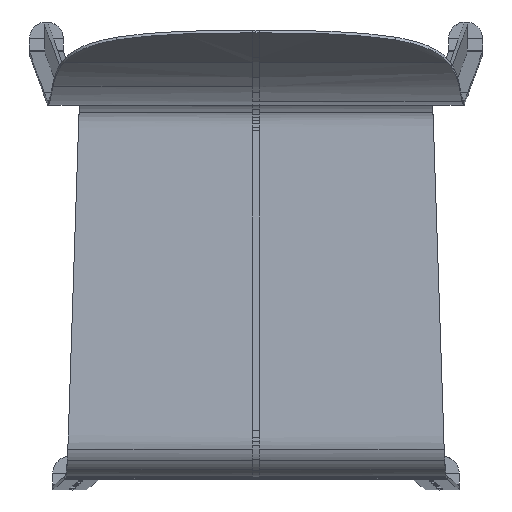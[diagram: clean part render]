
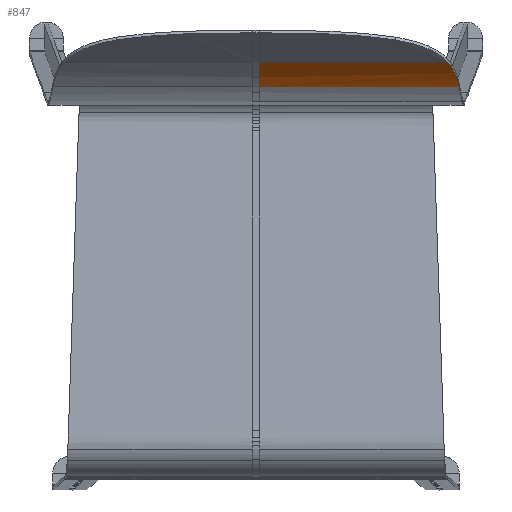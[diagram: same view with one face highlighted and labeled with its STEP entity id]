
A CAD part, top view. The second image highlights one B-rep face of the part: STEP entity #847.
In plain terms, the highlighted free-form (B-spline) face has degree [1, 3] with [4, 4] control points.
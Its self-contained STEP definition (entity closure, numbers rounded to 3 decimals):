
#847=ADVANCED_FACE('',(#1893),#17060,.T.);
#1893=FACE_OUTER_BOUND('',#2943,.T.);
#2943=EDGE_LOOP('',(#7249,#7250,#7251,#7252,#7253,#7254,#7255,#7256));
#7249=ORIENTED_EDGE('',*,*,#10825,.T.);
#7250=ORIENTED_EDGE('',*,*,#10826,.F.);
#7251=ORIENTED_EDGE('',*,*,#10827,.F.);
#7252=ORIENTED_EDGE('',*,*,#10828,.F.);
#7253=ORIENTED_EDGE('',*,*,#10829,.F.);
#7254=ORIENTED_EDGE('',*,*,#10830,.F.);
#7255=ORIENTED_EDGE('',*,*,#10831,.T.);
#7256=ORIENTED_EDGE('',*,*,#10870,.T.);
#10825=EDGE_CURVE('',#15676,#15675,#13609,.T.);
#10826=EDGE_CURVE('',#15598,#15675,#13610,.T.);
#10827=EDGE_CURVE('',#15596,#15598,#13611,.T.);
#10828=EDGE_CURVE('',#15594,#15596,#13612,.T.);
#10829=EDGE_CURVE('',#15592,#15594,#13613,.T.);
#10830=EDGE_CURVE('',#15591,#15592,#13614,.T.);
#10831=EDGE_CURVE('',#15591,#15677,#13615,.T.);
#10870=EDGE_CURVE('',#15677,#15676,#13654,.T.);
#13609=B_SPLINE_CURVE_WITH_KNOTS('',3,(#38253,#38254,#38255,#38256),
 .UNSPECIFIED.,.F.,.F.,(4,4),(0.,25.249),.UNSPECIFIED.);
#13610=B_SPLINE_CURVE_WITH_KNOTS('',1,(#38257,#38258),.UNSPECIFIED.,.F.,
 .F.,(2,2),(-217.986,0.),.UNSPECIFIED.);
#13611=B_SPLINE_CURVE_WITH_KNOTS('',3,(#38259,#38260,#38261,#38262),
 .UNSPECIFIED.,.F.,.F.,(4,4),(-0.001,0.),.UNSPECIFIED.);
#13612=B_SPLINE_CURVE_WITH_KNOTS('',3,(#38263,#38264,#38265,#38266),
 .UNSPECIFIED.,.F.,.F.,(4,4),(-4.886,0.),.UNSPECIFIED.);
#13613=B_SPLINE_CURVE_WITH_KNOTS('',3,(#38267,#38268,#38269,#38270,#38271,
#38272,#38273,#38274,#38275,#38276,#38277,#38278),.UNSPECIFIED.,.F.,.F.,
(4,2,2,2,2,4),(-46.539,-40.722,-34.904,-23.27,
-11.635,0.),.UNSPECIFIED.);
#13614=B_SPLINE_CURVE_WITH_KNOTS('',3,(#38279,#38280,#38281,#38282),
 .UNSPECIFIED.,.F.,.F.,(4,4),(-9.448,0.),.UNSPECIFIED.);
#13615=B_SPLINE_CURVE_WITH_KNOTS('',1,(#38283,#38284),.UNSPECIFIED.,.F.,
 .F.,(2,2),(0.,205.774),.UNSPECIFIED.);
#13654=B_SPLINE_CURVE_WITH_KNOTS('',3,(#38412,#38413,#38414,#38415),
 .UNSPECIFIED.,.F.,.F.,(4,4),(-34.077,0.),.UNSPECIFIED.);
#15591=VERTEX_POINT('',#37221);
#15592=VERTEX_POINT('',#37222);
#15594=VERTEX_POINT('',#37224);
#15596=VERTEX_POINT('',#37226);
#15598=VERTEX_POINT('',#37228);
#15675=VERTEX_POINT('',#37305);
#15676=VERTEX_POINT('',#37306);
#15677=VERTEX_POINT('',#37307);
#17060=B_SPLINE_SURFACE_WITH_KNOTS('',1,3,((#34831,#34832,#34833,#34834),
(#34835,#34836,#34837,#34838),(#34839,#34840,#34841,#34842),(#34843,#34844,
#34845,#34846)),.UNSPECIFIED.,.F.,.F.,.F.,(2,1,1,2),(4,4),(-229.615,
-227.342,0.,2.296),(234.119,292.649),
 .UNSPECIFIED.);
#34831=CARTESIAN_POINT('',(1.797,183.314,709.757));
#34832=CARTESIAN_POINT('',(1.801,190.407,728.207));
#34833=CARTESIAN_POINT('',(1.805,199.304,745.963));
#34834=CARTESIAN_POINT('',(1.807,209.838,762.691));
#34835=CARTESIAN_POINT('',(4.,183.314,709.757));
#34836=CARTESIAN_POINT('',(4.,190.407,728.207));
#34837=CARTESIAN_POINT('',(4.,199.304,745.963));
#34838=CARTESIAN_POINT('',(4.,209.838,762.691));
#34839=CARTESIAN_POINT('',(224.256,183.314,709.757));
#34840=CARTESIAN_POINT('',(223.867,190.407,728.207));
#34841=CARTESIAN_POINT('',(223.547,199.304,745.963));
#34842=CARTESIAN_POINT('',(223.304,209.838,762.691));
#34843=CARTESIAN_POINT('',(226.481,183.314,709.757));
#34844=CARTESIAN_POINT('',(226.088,190.407,728.207));
#34845=CARTESIAN_POINT('',(225.765,199.304,745.963));
#34846=CARTESIAN_POINT('',(225.519,209.838,762.691));
#37221=CARTESIAN_POINT('',(209.774,209.838,762.691));
#37222=CARTESIAN_POINT('',(213.325,205.285,755.225));
#37224=CARTESIAN_POINT('',(221.56,185.097,714.286));
#37226=CARTESIAN_POINT('',(221.986,183.314,709.757));
#37228=CARTESIAN_POINT('',(221.986,183.314,709.757));
#37305=CARTESIAN_POINT('',(4.,183.314,709.757));
#37306=CARTESIAN_POINT('',(4.,193.339,732.915));
#37307=CARTESIAN_POINT('',(4.,209.837,762.691));
#38253=CARTESIAN_POINT('',(4.,193.339,732.915));
#38254=CARTESIAN_POINT('',(4.,189.679,725.338));
#38255=CARTESIAN_POINT('',(4.,186.333,717.61));
#38256=CARTESIAN_POINT('',(4.,183.314,709.757));
#38257=CARTESIAN_POINT('',(221.986,183.314,709.757));
#38258=CARTESIAN_POINT('',(4.,183.314,709.757));
#38259=CARTESIAN_POINT('',(221.986,183.314,709.757));
#38260=CARTESIAN_POINT('',(221.986,183.314,709.757));
#38261=CARTESIAN_POINT('',(221.986,183.314,709.757));
#38262=CARTESIAN_POINT('',(221.986,183.314,709.757));
#38263=CARTESIAN_POINT('',(221.56,185.097,714.286));
#38264=CARTESIAN_POINT('',(221.71,184.491,712.782));
#38265=CARTESIAN_POINT('',(221.851,183.897,711.272));
#38266=CARTESIAN_POINT('',(221.986,183.314,709.757));
#38267=CARTESIAN_POINT('',(213.325,205.285,755.225));
#38268=CARTESIAN_POINT('',(213.958,204.35,753.641));
#38269=CARTESIAN_POINT('',(214.534,203.421,752.034));
#38270=CARTESIAN_POINT('',(215.591,201.578,748.777));
#38271=CARTESIAN_POINT('',(216.072,200.664,747.127));
#38272=CARTESIAN_POINT('',(217.394,197.965,742.142));
#38273=CARTESIAN_POINT('',(218.115,196.216,738.765));
#38274=CARTESIAN_POINT('',(219.361,192.833,731.918));
#38275=CARTESIAN_POINT('',(219.886,191.199,728.448));
#38276=CARTESIAN_POINT('',(220.807,188.054,721.426));
#38277=CARTESIAN_POINT('',(221.203,186.542,717.871));
#38278=CARTESIAN_POINT('',(221.56,185.097,714.286));
#38279=CARTESIAN_POINT('',(209.774,209.838,762.691));
#38280=CARTESIAN_POINT('',(211.127,208.321,760.284));
#38281=CARTESIAN_POINT('',(212.299,206.799,757.79));
#38282=CARTESIAN_POINT('',(213.325,205.285,755.225));
#38283=CARTESIAN_POINT('',(209.774,209.838,762.691));
#38284=CARTESIAN_POINT('',(4.,209.837,762.691));
#38412=CARTESIAN_POINT('',(4.,209.837,762.691));
#38413=CARTESIAN_POINT('',(4.,203.788,753.084));
#38414=CARTESIAN_POINT('',(4.,198.277,743.137));
#38415=CARTESIAN_POINT('',(4.,193.339,732.915));
